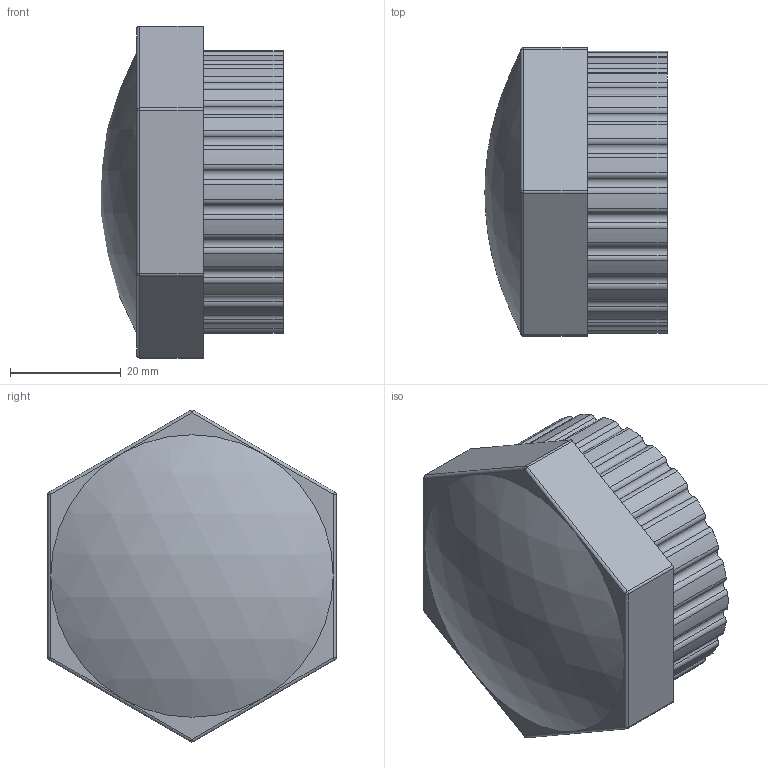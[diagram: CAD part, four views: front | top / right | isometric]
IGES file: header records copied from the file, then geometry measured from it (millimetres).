
Global section: file name: 050701013.ipt; native system: Autodesk Inventor 2015; preprocessor: unknown; author: KIM; date: 20171207.164844; units: millimetre
Bounding box: 32.86 x 52 x 59.88 mm (x, y, z)
Volume: 34818.7 mm3; surface area: 12238.6 mm2
Topology: 1 solids, 1 shells, 135 faces, 371 edges, 240 vertices
Faces by surface type: cylinder 87, revolution 27, plane 14, sphere 7
